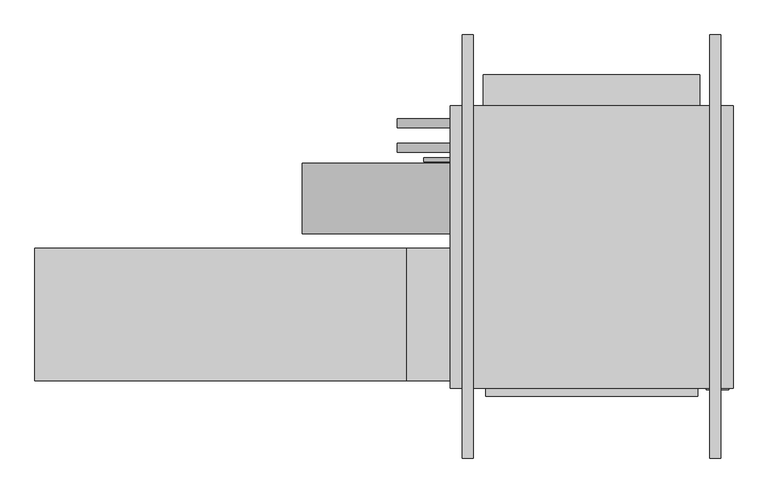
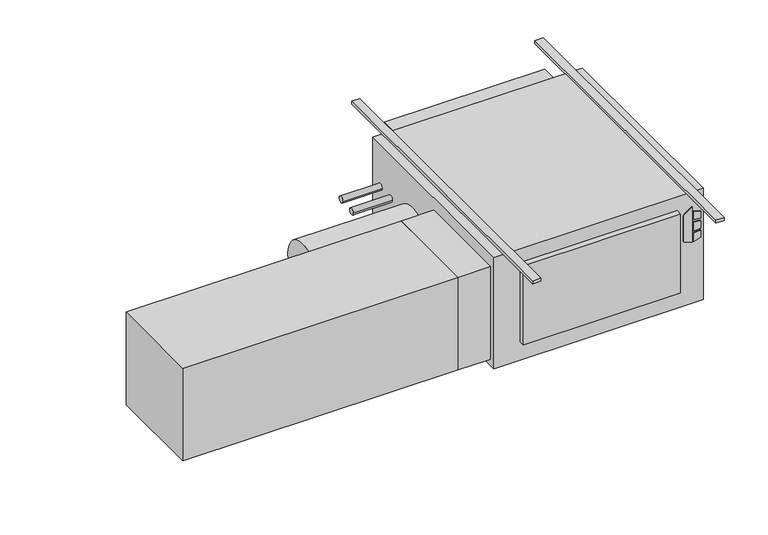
"""IFC4 building model written with IfcOpenShell, lengths in millimetres: proxy geometry."""

from ifc_helpers import new_model, si_unit, point, frame, frame_2d, origin, origin_with_axes, place, context, project, spatial, polyline, circle_curve, trimmed, segment, composite_curve, outline, extrude, source, transform, mapped, element, save


def mechanical_equipment_6d038fa3(model_context):
    return source(origin(), model_context, "Body", "SweptSolid", [
        extrude(outline(polyline([(-193.2519297, 481.0868862), (-203.2, 513.2602728), (-61.0290756, 513.2602728), (-84.0510817, 481.0868862), (-193.2519297, 481.0868862)])), frame((0.0, -647.7, 0.0), z_axis=(0.0, 1.0, 0.0), x_axis=(0.0, 0.0, 1.0)), (0.0, 0.0, 1.0), 3.175),
        extrude(outline(polyline([(-114.2526443, 520.0186058), (-117.4550368, 546.1), (-88.2261958, 546.1), (-80.1617807, 520.0186058), (-114.2526443, 520.0186058)])), frame((0.0, -647.7, 0.0), z_axis=(0.0, 1.0, 0.0), x_axis=(0.0, 0.0, 1.0)), (0.0, 0.0, 1.0), 3.175),
        extrude(outline(polyline([(-166.1161712, 546.1), (-169.7816721, 520.0186058), (-203.2, 520.0186058), (-194.5657628, 546.1), (-166.1161712, 546.1)])), frame((0.0, -647.7, 0.0), z_axis=(0.0, 1.0, 0.0), x_axis=(0.0, 0.0, 1.0)), (0.0, 0.0, 1.0), 3.175),
        extrude(outline(polyline([(-126.8010097, 546.1), (-124.5191834, 520.0186058), (-160.4567319, 520.0186058), (-157.7154669, 546.1), (-126.8010097, 546.1)])), frame((0.0, -647.7, 0.0), z_axis=(0.0, 1.0, 0.0), x_axis=(0.0, 0.0, 1.0)), (0.0, 0.0, 1.0), 3.175),
        extrude(outline(polyline([(457.2, -666.877), (-152.4, -666.877), (-152.4, -644.525), (457.2, -644.525), (457.2, -666.877)])), frame((0.0, 0.0, -381.0), z_axis=(0.0, 0.0, 1.0), x_axis=(1.0, 0.0, 0.0)), (0.0, 0.0, 1.0), 323.85),
        extrude(outline(polyline([(-1447.8, -622.3), (-1447.8, -241.3), (-381.0, -241.3), (-381.0, -622.3), (-1447.8, -622.3)])), frame((0.0, 0.0, -431.8), z_axis=(0.0, 0.0, 1.0), x_axis=(1.0, 0.0, 0.0)), (0.0, 0.0, 1.0), 381.0),
        extrude(outline(polyline([(-254.0, -241.3), (-254.0, -622.3), (-381.0, -622.3), (-381.0, -241.3), (-254.0, -241.3)])), frame((0.0, 0.0, -431.8), z_axis=(0.0, 0.0, 1.0), x_axis=(1.0, 0.0, 0.0)), (0.0, 0.0, 1.0), 381.0),
        extrude(outline(composite_curve([segment(trimmed(circle_curve(frame_2d((-98.4896516, -228.6360165)), 101.6), [point((-200.0896516, -228.6360165))], [point((3.1103484, -228.6360165))], False, "CARTESIAN"), True, "CONTINUOUS"), segment(trimmed(circle_curve(frame_2d((-98.4896516, -228.6360165)), 101.6), [point((3.1103484, -228.6360165))], [point((-200.0896516, -228.6360165))], False, "CARTESIAN"), True, "CONTINUOUS")], self_intersect=False)), frame((-679.45, 0.0, 0.0), z_axis=(1.0, 0.0, 0.0), x_axis=(0.0, 1.0, 0.0)), (0.0, 0.0, 1.0), 425.45),
        extrude(outline(composite_curve([segment(trimmed(circle_curve(frame_2d((47.625, -177.8)), 12.7), [point((34.925, -177.8))], [point((60.325, -177.8))], False, "CARTESIAN"), True, "CONTINUOUS"), segment(trimmed(circle_curve(frame_2d((47.625, -177.8)), 12.7), [point((60.325, -177.8))], [point((34.925, -177.8))], False, "CARTESIAN"), True, "CONTINUOUS")], self_intersect=False)), frame((-406.4, 0.0, 0.0), z_axis=(1.0, 0.0, 0.0), x_axis=(0.0, 1.0, 0.0)), (0.0, 0.0, 1.0), 152.4),
        extrude(outline(composite_curve([segment(trimmed(circle_curve(frame_2d((117.475, -171.45)), 12.7), [point((104.775, -171.45))], [point((130.175, -171.45))], False, "CARTESIAN"), True, "CONTINUOUS"), segment(trimmed(circle_curve(frame_2d((117.475, -171.45)), 12.7), [point((130.175, -171.45))], [point((104.775, -171.45))], False, "CARTESIAN"), True, "CONTINUOUS")], self_intersect=False)), frame((-406.4, 0.0, 0.0), z_axis=(1.0, 0.0, 0.0), x_axis=(0.0, 1.0, 0.0)), (0.0, 0.0, 1.0), 152.4),
        extrude(outline(composite_curve([segment(trimmed(circle_curve(frame_2d((12.7, -409.575)), 6.35), [point((6.35, -409.575))], [point((19.05, -409.575))], False, "CARTESIAN"), True, "CONTINUOUS"), segment(trimmed(circle_curve(frame_2d((12.7, -409.575)), 6.35), [point((19.05, -409.575))], [point((6.35, -409.575))], False, "CARTESIAN"), True, "CONTINUOUS")], self_intersect=False)), frame((-330.2, 0.0, 0.0), z_axis=(1.0, 0.0, 0.0), x_axis=(0.0, 1.0, 0.0)), (0.0, 0.0, 1.0), 76.2),
        extrude(outline(polyline([(558.8, 168.275), (558.8, -644.525), (-254.0, -644.525), (-254.0, 168.275), (558.8, 168.275)])), frame((0.0, 0.0, -457.2), z_axis=(0.0, 0.0, 1.0), x_axis=(1.0, 0.0, 0.0)), (0.0, 0.0, 1.0), 457.2),
        extrude(outline(polyline([(-158.75, 257.175), (463.55, 257.175), (463.55, 168.275), (-158.75, 168.275), (-158.75, 257.175)])), frame((0.0, 0.0, -381.0), z_axis=(0.0, 0.0, 1.0), x_axis=(1.0, 0.0, 0.0)), (0.0, 0.0, 1.0), 355.6),
        extrude(outline(polyline([(-187.325, 371.475), (-187.325, -844.677), (-219.075, -844.677), (-219.075, 371.475), (-187.325, 371.475)])), origin_with_axes(), (0.0, 0.0, 1.0), 12.7),
        extrude(outline(polyline([(523.875, 371.475), (523.875, -844.677), (492.125, -844.677), (492.125, 371.475), (523.875, 371.475)])), origin_with_axes(), (0.0, 0.0, 1.0), 12.7),
    ])


if __name__ == "__main__":
    model = new_model("IFC4")
    model_context = context("Model", 3, world=origin())
    ifc_project = project(units=[si_unit("LENGTHUNIT", "METRE", prefix="MILLI")], contexts=[model_context])
    site = spatial("IfcSite", under=ifc_project)
    building = spatial("IfcBuilding", under=site)
    placement = place(None, origin())
    mechanical_equipment_shape = mechanical_equipment_6d038fa3(model_context)
    element("IfcBuildingElementProxy", 1, Name="High_Capacity_Horizontal_Cabinet_Fan_Coil_Unit_-_HTY_-_IEC_-_2-Pipe_WO-Attenuator_LH Side_2022 : Size 10 - 277v/60Hz/1Ph - 8/0 Coil - 8\" AirIn", ObjectType="High_Capacity_Horizontal_Cabinet_Fan_Coil_Unit_-_HTY_-_IEC_-_2-Pipe_WO-Attenuator_LH Side_2022 : Size 10 - 277v/60Hz/1Ph - 8/0 Coil - 8\" AirIn", at=placement, inside=building, context=model_context, shape_type="MappedRepresentation", body=[
        mapped(mechanical_equipment_shape, transform((0.0, 0.0, 0.0), x_axis=(1.0, 0.0, 0.0), y_axis=(0.0, 1.0, 0.0), z_axis=(0.0, 0.0, 1.0))),
    ])
    save(model, "model.ifc")
